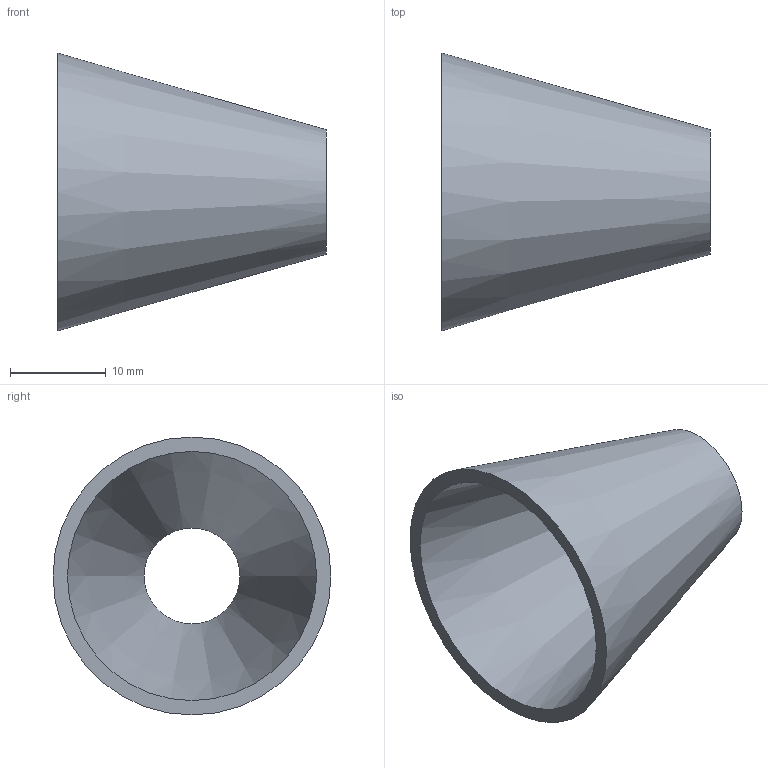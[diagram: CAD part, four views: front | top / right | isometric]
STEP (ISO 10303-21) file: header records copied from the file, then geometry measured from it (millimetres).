
FILE_DESCRIPTION(('FreeCAD Model'),'2;1');
FILE_NAME( '/home/martin/Documents/proyect/accesorios/stp/red-con_DN25-10.step', '2017-12-31T12:22:47',('Author'),(''), 'Open CASCADE STEP processor 6.8','FreeCAD','Unknown');
FILE_SCHEMA(('AUTOMOTIVE_DESIGN_CC2 { 1 2 10303 214 -1 1 5 4 }'));
Length unit declared in the file: millimetre
Products named in the file (1): red-con_DN25-10
Bounding box: 28 x 29 x 29 mm (x, y, z)
Volume: 2573 mm3; surface area: 3751.7 mm2
Topology: 1 solids, 1 shells, 4 faces, 6 edges, 4 vertices
Faces by surface type: cone 2, plane 2
Entity records: 191 total; most frequent: CARTESIAN_POINT 33, DIRECTION 26, ORIENTED_EDGE 12, PCURVE 12, DEFINITIONAL_REPRESENTATION 12, AXIS2_PLACEMENT_3D 9, CIRCLE 8, FACE_BOUND 6
